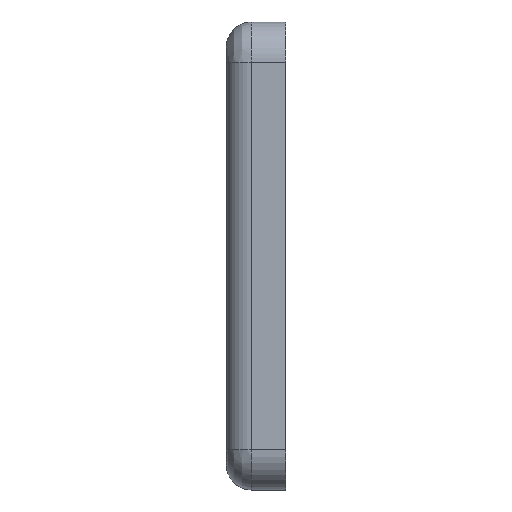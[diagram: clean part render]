
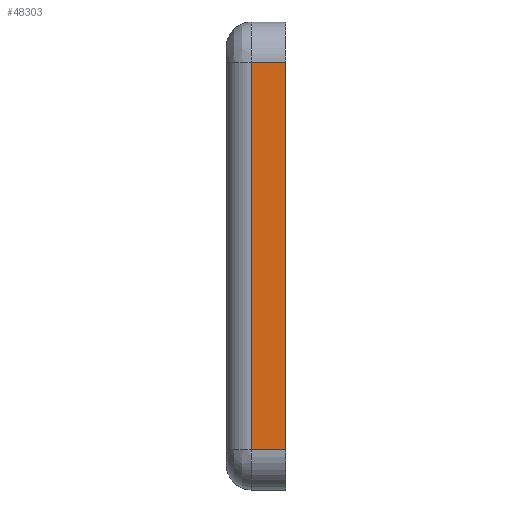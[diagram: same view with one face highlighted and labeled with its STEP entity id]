
A CAD part, left-side view. The second image highlights one B-rep face of the part: STEP entity #48303.
In plain terms, the highlighted planar face has unit normal (-1, 0, 0).
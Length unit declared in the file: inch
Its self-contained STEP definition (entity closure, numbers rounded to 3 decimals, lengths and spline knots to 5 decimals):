
#2152 = VERTEX_POINT ( 'NONE', #10122 ) ;
#3287 = EDGE_CURVE ( 'NONE', #24168, #30503, #40677, .T. ) ;
#3739 = DIRECTION ( 'NONE',  ( 0., 0., 1. ) ) ;
#4913 = DIRECTION ( 'NONE',  ( 0., 0., -1. ) ) ;
#7172 = CARTESIAN_POINT ( 'NONE',  ( -11.8998, 32.59788, 7.77918 ) ) ;
#8223 = ORIENTED_EDGE ( 'NONE', *, *, #3287, .T. ) ;
#10122 = CARTESIAN_POINT ( 'NONE',  ( -11.8998, -0.01726, 7.77918 ) ) ;
#12344 = DIRECTION ( 'NONE',  ( 0., -1., 0. ) ) ;
#13839 = ORIENTED_EDGE ( 'NONE', *, *, #40835, .F. ) ;
#15857 = CARTESIAN_POINT ( 'NONE',  ( -11.8998, 32.59788, -7.77918 ) ) ;
#16749 = CARTESIAN_POINT ( 'NONE',  ( -11.8998, 1.36891, 7.77918 ) ) ;
#16985 = AXIS2_PLACEMENT_3D ( 'NONE', #32511, #49156, #3739 ) ;
#19197 = ORIENTED_EDGE ( 'NONE', *, *, #40019, .T. ) ;
#20140 = FACE_OUTER_BOUND ( 'NONE', #40478, .T. ) ;
#21642 = CARTESIAN_POINT ( 'NONE',  ( -11.8998, -0.01726, 7.77918 ) ) ;
#23319 = LINE ( 'NONE', #7172, #46001 ) ;
#23929 = PLANE ( 'NONE',  #16985 ) ;
#24168 = VERTEX_POINT ( 'NONE', #24215 ) ;
#24215 = CARTESIAN_POINT ( 'NONE',  ( -11.8998, 1.36891, 7.77918 ) ) ;
#24463 = LINE ( 'NONE', #15857, #49771 ) ;
#24473 = VERTEX_POINT ( 'NONE', #42188 ) ;
#25138 = DIRECTION ( 'NONE',  ( 0., 0., -1. ) ) ;
#29690 = LINE ( 'NONE', #21642, #42065 ) ;
#30503 = VERTEX_POINT ( 'NONE', #46926 ) ;
#32511 = CARTESIAN_POINT ( 'NONE',  ( -11.8998, 32.59788, 7.77918 ) ) ;
#34736 = VECTOR ( 'NONE', #4913, 39.37008 ) ;
#40019 = EDGE_CURVE ( 'NONE', #30503, #24473, #24463, .T. ) ;
#40478 = EDGE_LOOP ( 'NONE', ( #40849, #8223, #19197, #13839 ) ) ;
#40677 = LINE ( 'NONE', #16749, #34736 ) ;
#40835 = EDGE_CURVE ( 'NONE', #2152, #24473, #29690, .T. ) ;
#40849 = ORIENTED_EDGE ( 'NONE', *, *, #43953, .F. ) ;
#42065 = VECTOR ( 'NONE', #25138, 39.37008 ) ;
#42188 = CARTESIAN_POINT ( 'NONE',  ( -11.8998, -0.01726, -7.77918 ) ) ;
#43953 = EDGE_CURVE ( 'NONE', #24168, #2152, #23319, .T. ) ;
#44785 = DIRECTION ( 'NONE',  ( 0., -1., 0. ) ) ;
#46001 = VECTOR ( 'NONE', #44785, 39.37008 ) ;
#46926 = CARTESIAN_POINT ( 'NONE',  ( -11.8998, 1.36891, -7.77918 ) ) ;
#48303 = ADVANCED_FACE ( 'NONE', ( #20140 ), #23929, .T. ) ;
#49156 = DIRECTION ( 'NONE',  ( -1., 0., 0. ) ) ;
#49771 = VECTOR ( 'NONE', #12344, 39.37008 ) ;
